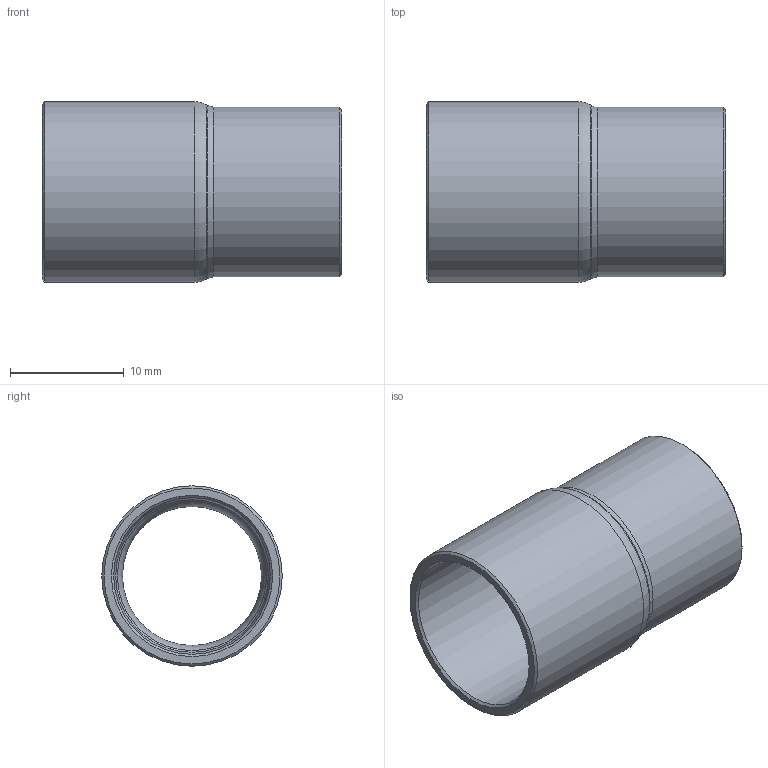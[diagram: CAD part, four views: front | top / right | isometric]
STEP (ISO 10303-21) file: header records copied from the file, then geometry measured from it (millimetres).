
FILE_DESCRIPTION((''),'2;1');
FILE_NAME('G:\SANHA-Ternat\Technik\Management\Bouwmaten + markeringen\z-maattekeningen 3D\29000s\292435812_3d.stp','2017-08-03T15:37:43',('vdvijverd'),(''),'Autodesk Inventor 2009','Autodesk Inventor 2009','');
FILE_SCHEMA(('AUTOMOTIVE_DESIGN { 1 0 10303 214 1 1 1 1 }'));
Length unit declared in the file: millimetre
Products named in the file (1): 292435812_3d
Bounding box: 26.3 x 15.88 x 15.88 mm (x, y, z)
Volume: 1269.5 mm3; surface area: 2461 mm2
Topology: 1 solids, 1 shells, 17 faces, 32 edges, 17 vertices
Faces by surface type: cone 6, cylinder 4, bspline 3, plane 2, torus 2
Full cylindrical faces by diameter (mm): 12.82 x1, 13.775 x1, 14.92 x1, 15.875 x1
Entity records: 494 total; most frequent: CARTESIAN_POINT 184, DIRECTION 64, ORIENTED_EDGE 34, EDGE_LOOP 34, AXIS2_PLACEMENT_3D 32, VERTEX_POINT 17, CIRCLE 17, EDGE_CURVE 17
